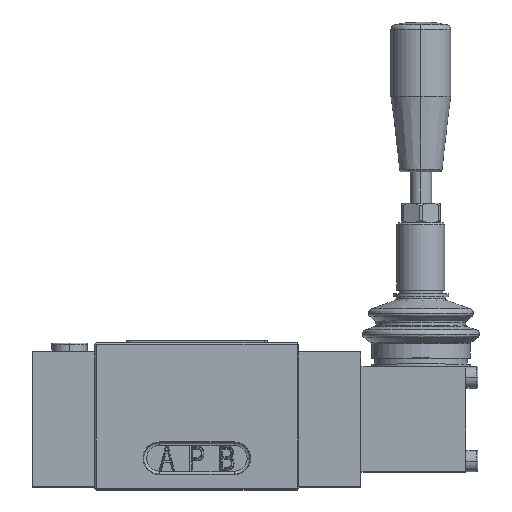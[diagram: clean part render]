
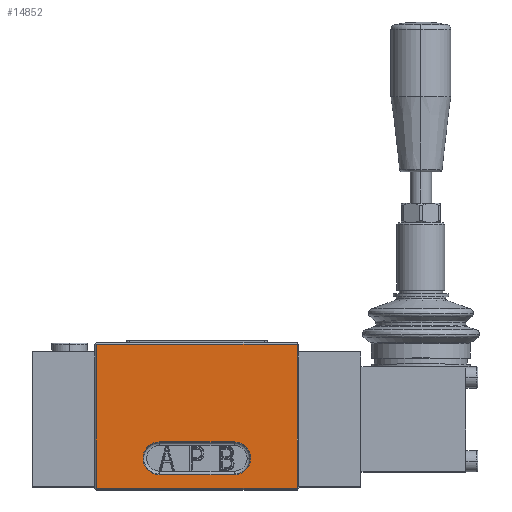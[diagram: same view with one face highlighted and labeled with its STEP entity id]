
A CAD part, top view. The second image highlights one B-rep face of the part: STEP entity #14852.
In plain terms, the highlighted planar face has unit normal (0, 0, 1).
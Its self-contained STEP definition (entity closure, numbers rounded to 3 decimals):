
#181 = FACE_OUTER_BOUND ( 'NONE', #15648, .T. ) ;
#247 = DIRECTION ( 'NONE',  ( 0., 0., -1. ) ) ;
#1033 = VECTOR ( 'NONE', #10123, 1000. ) ;
#1146 = CARTESIAN_POINT ( 'NONE',  ( -33.5, -23.5, 23. ) ) ;
#1796 = ORIENTED_EDGE ( 'NONE', *, *, #19117, .T. ) ;
#2264 = CARTESIAN_POINT ( 'NONE',  ( -35., -23.5, 23. ) ) ;
#2571 = CIRCLE ( 'NONE', #10866, 5.471 ) ;
#3116 = ORIENTED_EDGE ( 'NONE', *, *, #21399, .T. ) ;
#3966 = CARTESIAN_POINT ( 'NONE',  ( 17.971, -13.5, 23. ) ) ;
#4129 = VERTEX_POINT ( 'NONE', #3966 ) ;
#5307 = CARTESIAN_POINT ( 'NONE',  ( 12.5, -13.5, 23. ) ) ;
#5370 = DIRECTION ( 'NONE',  ( 0., 1., 0. ) ) ;
#5588 = AXIS2_PLACEMENT_3D ( 'NONE', #8880, #247, #13599 ) ;
#5850 = CARTESIAN_POINT ( 'NONE',  ( 12.5, -18.971, 23. ) ) ;
#5978 = EDGE_CURVE ( 'NONE', #22345, #13725, #25706, .T. ) ;
#6043 = CIRCLE ( 'NONE', #5588, 5.471 ) ;
#6400 = VERTEX_POINT ( 'NONE', #20295 ) ;
#6642 = FACE_BOUND ( 'NONE', #16648, .T. ) ;
#7527 = ORIENTED_EDGE ( 'NONE', *, *, #18519, .T. ) ;
#8455 = DIRECTION ( 'NONE',  ( -1., 0., 0. ) ) ;
#8650 = CARTESIAN_POINT ( 'NONE',  ( -12.5, -13.5, 23. ) ) ;
#8880 = CARTESIAN_POINT ( 'NONE',  ( 12.5, -13.5, 23. ) ) ;
#8972 = PLANE ( 'NONE',  #25567 ) ;
#9232 = AXIS2_PLACEMENT_3D ( 'NONE', #8650, #15134, #22422 ) ;
#9743 = VERTEX_POINT ( 'NONE', #23478 ) ;
#9901 = EDGE_CURVE ( 'NONE', #18729, #27284, #21978, .T. ) ;
#10123 = DIRECTION ( 'NONE',  ( -1., 0., 0. ) ) ;
#10807 = CARTESIAN_POINT ( 'NONE',  ( 12.5, -8.029, 23. ) ) ;
#10866 = AXIS2_PLACEMENT_3D ( 'NONE', #5307, #18350, #18773 ) ;
#12217 = LINE ( 'NONE', #16744, #15975 ) ;
#12368 = LINE ( 'NONE', #16913, #1033 ) ;
#13359 = LINE ( 'NONE', #10807, #24218 ) ;
#13534 = DIRECTION ( 'NONE',  ( 0., 0., 1. ) ) ;
#13599 = DIRECTION ( 'NONE',  ( 1., 0., 0. ) ) ;
#13725 = VERTEX_POINT ( 'NONE', #17811 ) ;
#13803 = DIRECTION ( 'NONE',  ( 1., 0., 0. ) ) ;
#14474 = ORIENTED_EDGE ( 'NONE', *, *, #20220, .T. ) ;
#14497 = CARTESIAN_POINT ( 'NONE',  ( 33.5, -23.5, 23. ) ) ;
#14852 = ADVANCED_FACE ( 'NONE', ( #6642, #181 ), #8972, .T. ) ;
#15134 = DIRECTION ( 'NONE',  ( 0., 0., -1. ) ) ;
#15284 = ORIENTED_EDGE ( 'NONE', *, *, #9901, .T. ) ;
#15431 = EDGE_CURVE ( 'NONE', #9743, #4129, #2571, .T. ) ;
#15648 = EDGE_LOOP ( 'NONE', ( #22127, #24793, #15284, #14474 ) ) ;
#15975 = VECTOR ( 'NONE', #28214, 1000. ) ;
#16313 = VECTOR ( 'NONE', #5370, 1000. ) ;
#16363 = LINE ( 'NONE', #18410, #16313 ) ;
#16450 = CARTESIAN_POINT ( 'NONE',  ( -33.5, 24.5, 23. ) ) ;
#16648 = EDGE_LOOP ( 'NONE', ( #21875, #1796, #20238, #7527, #3116 ) ) ;
#16744 = CARTESIAN_POINT ( 'NONE',  ( -33.5, -24., 23. ) ) ;
#16913 = CARTESIAN_POINT ( 'NONE',  ( -35., 24.5, 23. ) ) ;
#17811 = CARTESIAN_POINT ( 'NONE',  ( -12.5, -18.971, 23. ) ) ;
#18128 = VERTEX_POINT ( 'NONE', #18408 ) ;
#18350 = DIRECTION ( 'NONE',  ( 0., 0., -1. ) ) ;
#18408 = CARTESIAN_POINT ( 'NONE',  ( -12.5, -8.029, 23. ) ) ;
#18410 = CARTESIAN_POINT ( 'NONE',  ( 33.5, -24., 23. ) ) ;
#18519 = EDGE_CURVE ( 'NONE', #13725, #18128, #24969, .T. ) ;
#18729 = VERTEX_POINT ( 'NONE', #1146 ) ;
#18773 = DIRECTION ( 'NONE',  ( 1., 0., 0. ) ) ;
#19117 = EDGE_CURVE ( 'NONE', #4129, #22345, #6043, .T. ) ;
#20220 = EDGE_CURVE ( 'NONE', #27284, #6400, #16363, .T. ) ;
#20238 = ORIENTED_EDGE ( 'NONE', *, *, #5978, .T. ) ;
#20295 = CARTESIAN_POINT ( 'NONE',  ( 33.5, 24.5, 23. ) ) ;
#20700 = DIRECTION ( 'NONE',  ( 1., 0., 0. ) ) ;
#21399 = EDGE_CURVE ( 'NONE', #18128, #9743, #13359, .T. ) ;
#21875 = ORIENTED_EDGE ( 'NONE', *, *, #15431, .T. ) ;
#21978 = LINE ( 'NONE', #2264, #28494 ) ;
#22082 = VERTEX_POINT ( 'NONE', #16450 ) ;
#22127 = ORIENTED_EDGE ( 'NONE', *, *, #24031, .T. ) ;
#22345 = VERTEX_POINT ( 'NONE', #23907 ) ;
#22422 = DIRECTION ( 'NONE',  ( 1., 0., 0. ) ) ;
#22450 = CARTESIAN_POINT ( 'NONE',  ( -35., -24., 23. ) ) ;
#23441 = VECTOR ( 'NONE', #8455, 1000. ) ;
#23478 = CARTESIAN_POINT ( 'NONE',  ( 12.5, -8.029, 23. ) ) ;
#23907 = CARTESIAN_POINT ( 'NONE',  ( 12.5, -18.971, 23. ) ) ;
#24031 = EDGE_CURVE ( 'NONE', #6400, #22082, #12368, .T. ) ;
#24218 = VECTOR ( 'NONE', #13803, 1000. ) ;
#24281 = DIRECTION ( 'NONE',  ( 1., 0., 0. ) ) ;
#24793 = ORIENTED_EDGE ( 'NONE', *, *, #28636, .T. ) ;
#24969 = CIRCLE ( 'NONE', #9232, 5.471 ) ;
#25567 = AXIS2_PLACEMENT_3D ( 'NONE', #22450, #13534, #20700 ) ;
#25706 = LINE ( 'NONE', #5850, #23441 ) ;
#27284 = VERTEX_POINT ( 'NONE', #14497 ) ;
#28214 = DIRECTION ( 'NONE',  ( 0., -1., 0. ) ) ;
#28494 = VECTOR ( 'NONE', #24281, 1000. ) ;
#28636 = EDGE_CURVE ( 'NONE', #22082, #18729, #12217, .T. ) ;
